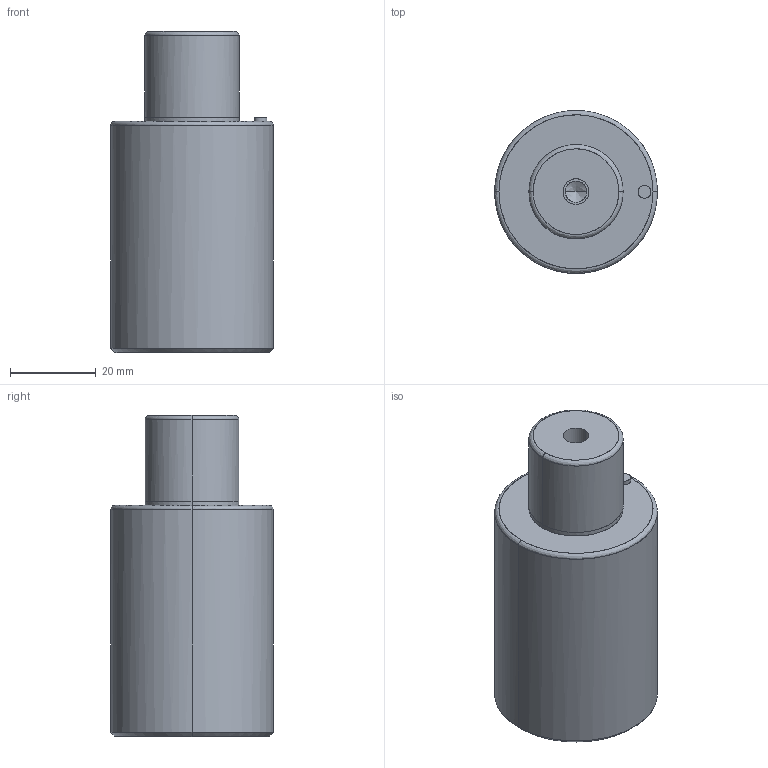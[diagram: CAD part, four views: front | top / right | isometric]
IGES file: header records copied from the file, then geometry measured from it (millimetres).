
Global section: file name: E:\UnigraphicsGraphicData\MISUMI_PRESS-PARTS\IGES\3d_gsc38-20_03828_r00.igs; native system: NX V5.0; preprocessor: UGS NX IGES V5.0; author: MISUMI; date: 20110105.160746; units: millimetre
Bounding box: 38 x 37.92 x 75 mm (x, y, z)
Surface area: 10616.2 mm2 (no closed solid volume)
Topology: 0 solids, 0 shells, 32 faces, 216 edges, 212 vertices
Faces by surface type: bspline 32
